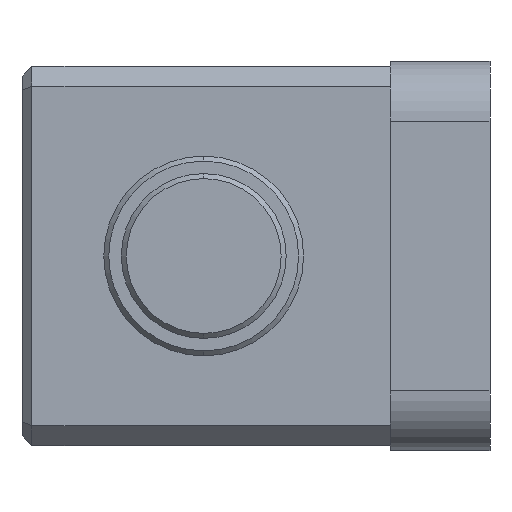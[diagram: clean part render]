
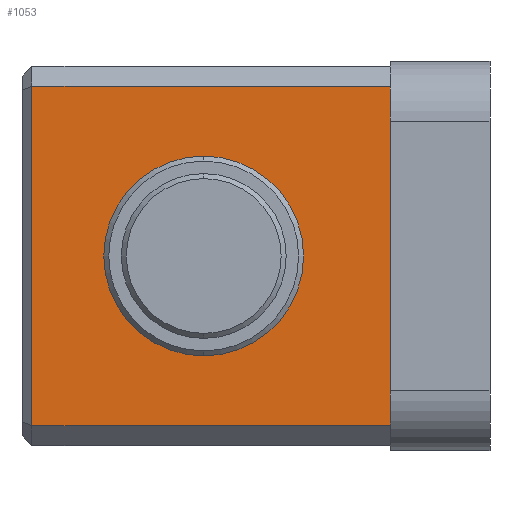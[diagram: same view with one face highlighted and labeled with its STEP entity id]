
A CAD part, left-side view. The second image highlights one B-rep face of the part: STEP entity #1053.
In plain terms, the highlighted planar face has unit normal (-1, 0, 0).
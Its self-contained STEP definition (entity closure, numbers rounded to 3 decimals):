
#148 = DIRECTION ( 'NONE',  ( 1., 0., 0. ) ) ;
#155 = CARTESIAN_POINT ( 'NONE',  ( -8., 55.85, -17. ) ) ;
#164 = CARTESIAN_POINT ( 'NONE',  ( -8., 56.85, 19. ) ) ;
#171 = ORIENTED_EDGE ( 'NONE', *, *, #1689, .T. ) ;
#201 = AXIS2_PLACEMENT_3D ( 'NONE', #1009, #1782, #2171 ) ;
#340 = CARTESIAN_POINT ( 'NONE',  ( -8., 20., 17. ) ) ;
#361 = FACE_BOUND ( 'NONE', #1553, .T. ) ;
#376 = ORIENTED_EDGE ( 'NONE', *, *, #1608, .F. ) ;
#739 = VERTEX_POINT ( 'NONE', #909 ) ;
#793 = EDGE_CURVE ( 'NONE', #869, #1262, #2079, .T. ) ;
#834 = ORIENTED_EDGE ( 'NONE', *, *, #978, .T. ) ;
#848 = CIRCLE ( 'NONE', #1412, 10. ) ;
#869 = VERTEX_POINT ( 'NONE', #1389 ) ;
#873 = DIRECTION ( 'NONE',  ( 0., -1., 0. ) ) ;
#909 = CARTESIAN_POINT ( 'NONE',  ( -8., 38.66, 10. ) ) ;
#931 = DIRECTION ( 'NONE',  ( 0., 0., -1. ) ) ;
#932 = CIRCLE ( 'NONE', #201, 10. ) ;
#978 = EDGE_CURVE ( 'NONE', #2319, #869, #2429, .T. ) ;
#1009 = CARTESIAN_POINT ( 'NONE',  ( -8., 38.66, 0. ) ) ;
#1033 = DIRECTION ( 'NONE',  ( 0., 1., 0. ) ) ;
#1053 = ADVANCED_FACE ( 'NONE', ( #361, #2296 ), #1889, .T. ) ;
#1057 = CARTESIAN_POINT ( 'NONE',  ( -8., 56.85, 17. ) ) ;
#1112 = ORIENTED_EDGE ( 'NONE', *, *, #793, .T. ) ;
#1119 = CARTESIAN_POINT ( 'NONE',  ( -8., 38.66, 0. ) ) ;
#1216 = VERTEX_POINT ( 'NONE', #1570 ) ;
#1218 = CARTESIAN_POINT ( 'NONE',  ( -8., 55.85, -17. ) ) ;
#1230 = VECTOR ( 'NONE', #1033, 1000. ) ;
#1242 = ORIENTED_EDGE ( 'NONE', *, *, #2075, .T. ) ;
#1262 = VERTEX_POINT ( 'NONE', #1218 ) ;
#1389 = CARTESIAN_POINT ( 'NONE',  ( -8., 55.85, 17. ) ) ;
#1412 = AXIS2_PLACEMENT_3D ( 'NONE', #1119, #148, #1874 ) ;
#1493 = DIRECTION ( 'NONE',  ( -1., 0., 0. ) ) ;
#1553 = EDGE_LOOP ( 'NONE', ( #1242, #171 ) ) ;
#1570 = CARTESIAN_POINT ( 'NONE',  ( -8., 20., -17. ) ) ;
#1595 = ORIENTED_EDGE ( 'NONE', *, *, #1993, .T. ) ;
#1608 = EDGE_CURVE ( 'NONE', #2319, #1216, #1829, .T. ) ;
#1612 = LINE ( 'NONE', #2389, #2356 ) ;
#1689 = EDGE_CURVE ( 'NONE', #1720, #739, #848, .T. ) ;
#1720 = VERTEX_POINT ( 'NONE', #2462 ) ;
#1755 = AXIS2_PLACEMENT_3D ( 'NONE', #164, #1493, #2252 ) ;
#1764 = EDGE_LOOP ( 'NONE', ( #834, #1112, #1595, #376 ) ) ;
#1782 = DIRECTION ( 'NONE',  ( 1., 0., 0. ) ) ;
#1807 = CARTESIAN_POINT ( 'NONE',  ( -8., 20., -19. ) ) ;
#1829 = LINE ( 'NONE', #1807, #1852 ) ;
#1852 = VECTOR ( 'NONE', #1978, 1000. ) ;
#1874 = DIRECTION ( 'NONE',  ( 0., 0., 1. ) ) ;
#1889 = PLANE ( 'NONE',  #1755 ) ;
#1978 = DIRECTION ( 'NONE',  ( 0., 0., -1. ) ) ;
#1993 = EDGE_CURVE ( 'NONE', #1262, #1216, #1612, .T. ) ;
#2075 = EDGE_CURVE ( 'NONE', #739, #1720, #932, .T. ) ;
#2079 = LINE ( 'NONE', #155, #2492 ) ;
#2171 = DIRECTION ( 'NONE',  ( 0., 0., 1. ) ) ;
#2252 = DIRECTION ( 'NONE',  ( 0., 0., 1. ) ) ;
#2296 = FACE_OUTER_BOUND ( 'NONE', #1764, .T. ) ;
#2319 = VERTEX_POINT ( 'NONE', #340 ) ;
#2356 = VECTOR ( 'NONE', #873, 1000. ) ;
#2389 = CARTESIAN_POINT ( 'NONE',  ( -8., 20., -17. ) ) ;
#2429 = LINE ( 'NONE', #1057, #1230 ) ;
#2462 = CARTESIAN_POINT ( 'NONE',  ( -8., 38.66, -10. ) ) ;
#2492 = VECTOR ( 'NONE', #931, 1000. ) ;
